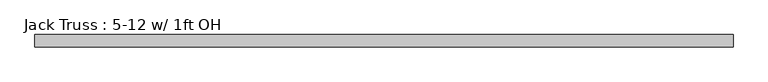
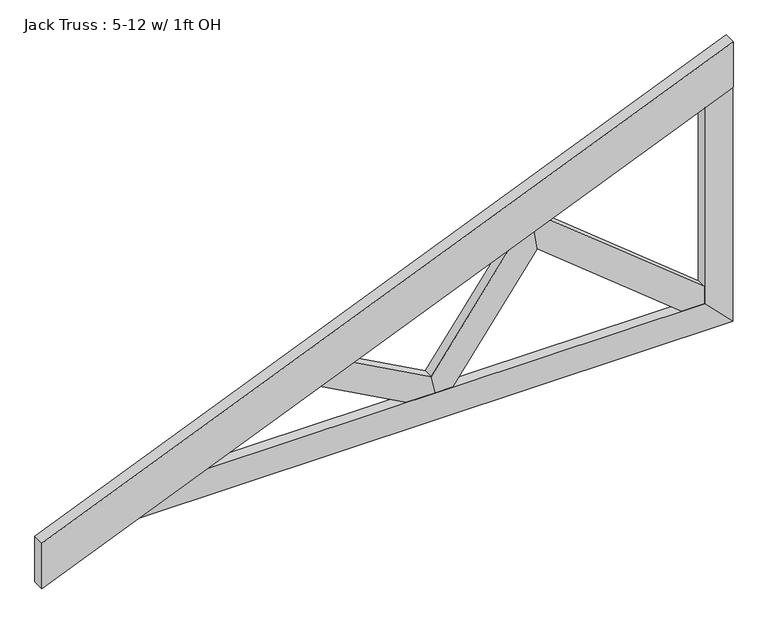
"""IFC4 building model written with IfcOpenShell, lengths in millimetres: beam geometry, Jack Truss : 5-12 w/ 1ft OH."""

from ifc_helpers import new_model, si_unit, origin, place, context, project, spatial, faceted_brep, source, transform, mapped, element, save


def jack_truss_5_12_w_1ft_oh_3a7e861e(model_context):
    return source(origin(), model_context, "Body", "Brep", [
        faceted_brep([(1792.4849352, -192.268471, 454.6121996), (2246.4724934, -192.268471, 88.9), (2317.328395, -192.268471, 88.9), (2317.328395, -192.268471, 145.9783652), (1830.6288755, -192.268471, 538.0418669), (1783.928395, -192.268471, 518.5833333), (1792.4849352, -160.518471, 454.6121996), (2246.4724934, -160.518471, 88.9), (1783.928395, -160.518471, 518.5833333), (1830.6288755, -160.518471, 538.0418669), (2317.328395, -160.518471, 145.9783652), (2317.328395, -160.518471, 88.9), (1459.7590582, -192.268471, 146.7082243), (1472.778395, -192.268471, 88.9), (1527.6588596, -192.268471, 88.9), (1705.3341492, -192.268471, 485.8357309), (1527.6588596, -160.518471, 88.9), (1472.778395, -160.518471, 88.9), (1459.7590582, -160.518471, 146.7082243), (1705.3341492, -160.518471, 485.8357309), (1214.1839672, -192.268471, 281.1898218), (1109.0728227, -192.268471, 237.3935116), (1380.2348872, -192.268471, 88.9), (1380.2348872, -160.518471, 88.9), (1109.0728227, -160.518471, 237.3935116), (1214.1839672, -160.518471, 281.1898218), (2317.328395, -193.855971, 88.9), (2317.328395, -158.930971, 88.9), (752.688395, -158.930971, 88.9), (752.688395, -193.855971, 88.9), (2406.228395, -158.930971, 0.0), (539.328395, -158.930971, 0.0), (2406.228395, -193.855971, 0.0), (539.328395, -193.855971, 0.0), (2317.328395, -193.855971, 740.8333333), (2317.328395, -158.930971, 740.8333333), (2406.228395, -158.930971, 777.875), (2406.228395, -157.343471, 777.875), (2406.228395, -157.343471, 929.2166667), (2406.228395, -195.443471, 929.2166667), (2406.228395, -195.443471, 777.875), (2406.228395, -193.855971, 777.875), (234.528395, -195.443471, -127.0), (234.528395, -195.443471, 24.3416667), (234.528395, -157.343471, -127.0), (234.528395, -157.343471, 24.3416667)], [[[0, 1, 2, 3, 4, 5]], [[0, 6, 7, 1]], [[7, 6, 8, 9, 10, 11]], [[3, 10, 9, 4]], [[12, 13, 14, 0, 5, 15]], [[6, 0, 14, 16]], [[6, 16, 17, 18, 19, 8]], [[18, 12, 15, 19]], [[13, 12, 20, 21, 22]], [[23, 22, 21, 24]], [[18, 17, 23, 24, 25]], [[12, 18, 25, 20]], [[26, 2, 1, 7, 11, 27, 28, 29], [14, 13, 22, 23, 17, 16]], [[27, 30, 31, 28]], [[31, 30, 32, 33]], [[33, 32, 26, 29]], [[2, 26, 34, 35, 27, 11, 10, 3]], [[30, 27, 35, 36]], [[32, 30, 36, 37, 38, 39, 40, 41]], [[26, 32, 41, 34]], [[42, 40, 39, 43]], [[44, 45, 38, 37]], [[40, 42, 44, 37, 36, 35, 34, 41], [5, 4, 9, 8, 19, 15], [21, 20, 25, 24], [29, 28, 31, 33]], [[43, 39, 38, 45]], [[42, 43, 45, 44]]]),
    ])


if __name__ == "__main__":
    model = new_model("IFC4")
    model_context = context("Model", 3, world=origin())
    ifc_project = project(units=[si_unit("LENGTHUNIT", "METRE", prefix="MILLI")], contexts=[model_context])
    site = spatial("IfcSite", under=ifc_project)
    building = spatial("IfcBuilding", under=site)
    placement = place(None, origin())
    jack_truss_5_12_w_1ft_oh_shape = jack_truss_5_12_w_1ft_oh_3a7e861e(model_context)
    element("IfcBeam", 1, ObjectType="Jack Truss : 5-12 w/ 1ft OH", at=placement, inside=building, context=model_context, shape_type="MappedRepresentation", body=[
        mapped(jack_truss_5_12_w_1ft_oh_shape, transform((0.0, 0.0, 0.0), x_axis=(1.0, 0.0, 0.0), y_axis=(0.0, 1.0, 0.0), z_axis=(0.0, 0.0, 1.0))),
    ])
    save(model, "model.ifc")
